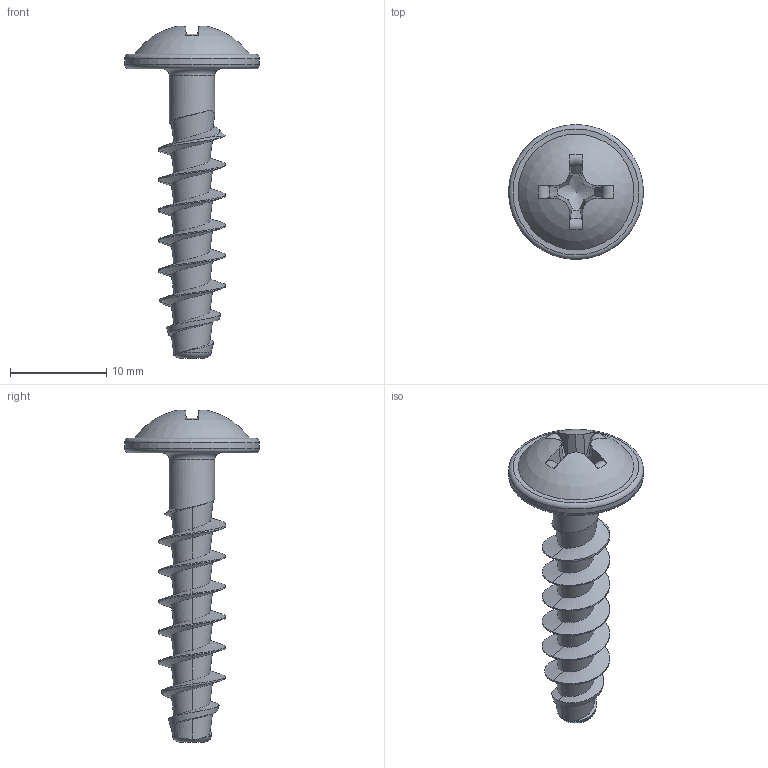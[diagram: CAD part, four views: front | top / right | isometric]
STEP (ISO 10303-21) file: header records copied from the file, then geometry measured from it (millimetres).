
FILE_DESCRIPTION(/* description */ (''),/* implementation_level */ '2;1');
FILE_NAME(/* name */ 'KN1031-Neu-STS-70x30-H3.step',/* time_stamp */ '2017-10-12T13:21:00+02:00',/* author */ (''),/* organization */ (''),/* preprocessor_version */ 'ST-DEVELOPER v16',/* originating_system */ 'SIEMENS PLM Software NX 10.0',/* authorisation */ '');
FILE_SCHEMA (('AUTOMOTIVE_DESIGN { 1 0 10303 214 3 1 1 1 }'));
Length unit declared in the file: millimetre
Products named in the file (1): KN1031-Neu-STS-70x30-H3
Bounding box: 14 x 14 x 34.44 mm (x, y, z)
Volume: 866.1 mm3; surface area: 1096.9 mm2
Topology: 1 solids, 1 shells, 65 faces, 168 edges, 106 vertices
Faces by surface type: bspline 26, plane 19, torus 8, cone 7, cylinder 4, sphere 1
Full cylindrical faces by diameter (mm): 4.71 x1, 14 x1
Entity records: 3879 total; most frequent: CARTESIAN_POINT 2560, ORIENTED_EDGE 304, DIRECTION 193, EDGE_CURVE 152, VERTEX_POINT 100, AXIS2_PLACEMENT_3D 79, B_SPLINE_CURVE_WITH_KNOTS 77, EDGE_LOOP 73
